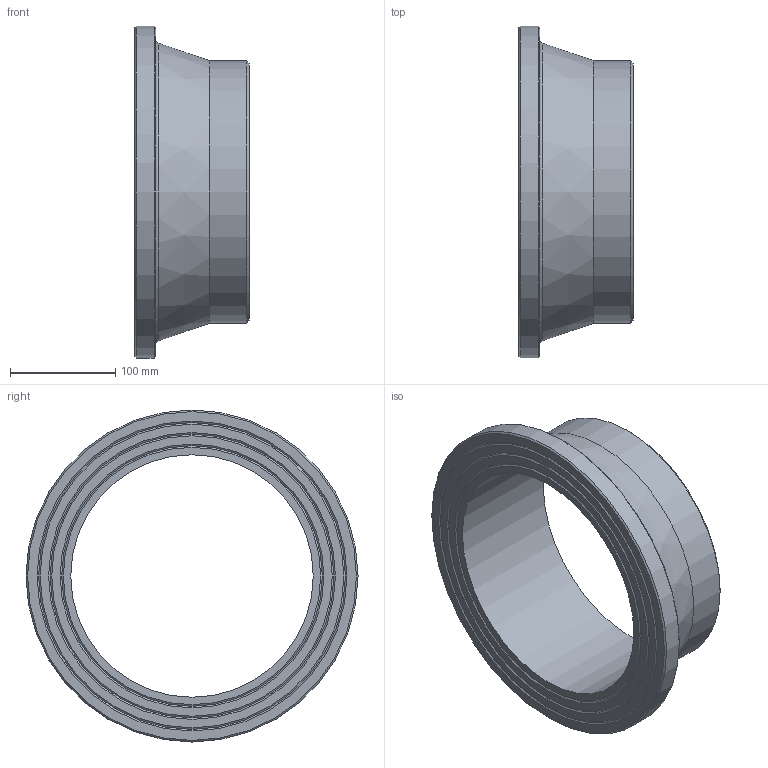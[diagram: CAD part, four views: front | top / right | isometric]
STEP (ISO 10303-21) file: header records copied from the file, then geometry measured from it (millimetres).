
FILE_DESCRIPTION(/* description */ ('Unknown'),/* implementation_level */ '2;1');
FILE_NAME(/* name */ 'CCP250A',/* time_stamp */ '2022-04-05T10:16:08+02:00',/* author */ ('Unknown'),/* organization */ ('Unknown'),/* preprocessor_version */ 'ST-DEVELOPER v18.1',/* originating_system */ 'Solid Edge',/* authorisation */ 'Unknown');
FILE_SCHEMA (('AUTOMOTIVE_DESIGN {1 0 10303 214 3 1 1}'));
Length unit declared in the file: millimetre
Products named in the file (1): CCP250A
Bounding box: 109 x 316 x 316 mm (x, y, z)
Volume: 1736395.2 mm3; surface area: 230773.2 mm2
Topology: 1 solids, 1 shells, 20 faces, 35 edges, 21 vertices
Faces by surface type: cone 10, plane 6, cylinder 3, torus 1
Full cylindrical faces by diameter (mm): 230.8 x1, 250 x1, 316 x1
Entity records: 438 total; most frequent: DIRECTION 82, CARTESIAN_POINT 61, AXIS2_PLACEMENT_3D 41, ORIENTED_EDGE 40, EDGE_LOOP 40, FACE_BOUND 40, EDGE_CURVE 20, VERTEX_POINT 20
